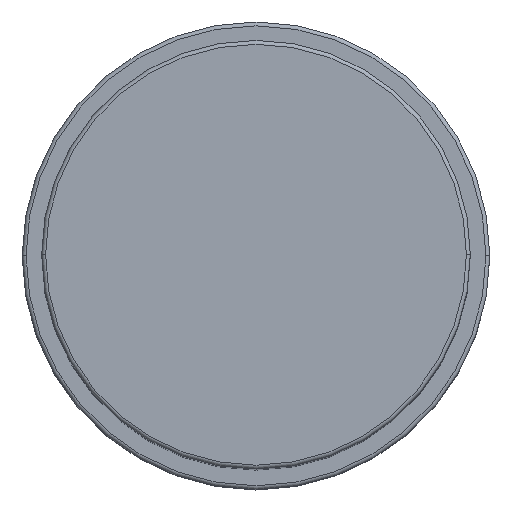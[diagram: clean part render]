
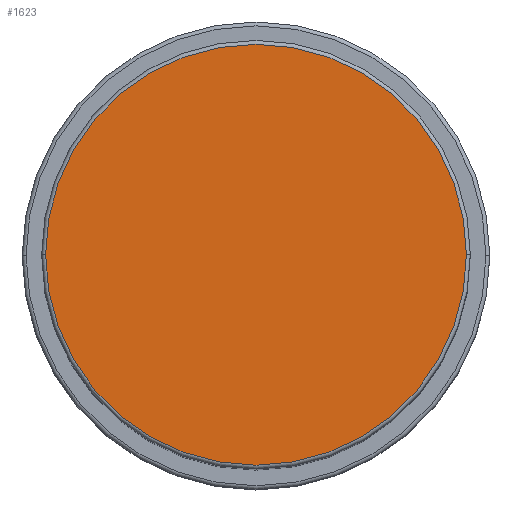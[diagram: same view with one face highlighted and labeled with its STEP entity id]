
A CAD part, top view. The second image highlights one B-rep face of the part: STEP entity #1623.
In plain terms, the highlighted planar face has unit normal (0, 0, 1).
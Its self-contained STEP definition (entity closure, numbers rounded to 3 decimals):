
#163 = ORIENTED_EDGE ( 'NONE', *, *, #1152, .T. ) ;
#214 = CIRCLE ( 'NONE', #1196, 27. ) ;
#260 = CIRCLE ( 'NONE', #1190, 27. ) ;
#301 = DIRECTION ( 'NONE',  ( 0., 0., 1. ) ) ;
#475 = CARTESIAN_POINT ( 'NONE',  ( 27., 0., 106. ) ) ;
#560 = DIRECTION ( 'NONE',  ( 0., 0., 1. ) ) ;
#583 = CARTESIAN_POINT ( 'NONE',  ( 0., 0., 106. ) ) ;
#597 = FACE_OUTER_BOUND ( 'NONE', #1136, .T. ) ;
#606 = VERTEX_POINT ( 'NONE', #475 ) ;
#641 = EDGE_CURVE ( 'NONE', #606, #1639, #214, .T. ) ;
#819 = CARTESIAN_POINT ( 'NONE',  ( 0., 0., 106. ) ) ;
#919 = DIRECTION ( 'NONE',  ( 0., 0., 1. ) ) ;
#925 = AXIS2_PLACEMENT_3D ( 'NONE', #583, #560, #1073 ) ;
#956 = ORIENTED_EDGE ( 'NONE', *, *, #641, .T. ) ;
#1073 = DIRECTION ( 'NONE',  ( 1., 0., 0. ) ) ;
#1136 = EDGE_LOOP ( 'NONE', ( #956, #163 ) ) ;
#1152 = EDGE_CURVE ( 'NONE', #1639, #606, #260, .T. ) ;
#1190 = AXIS2_PLACEMENT_3D ( 'NONE', #819, #301, #1192 ) ;
#1192 = DIRECTION ( 'NONE',  ( 1., 0., 0. ) ) ;
#1196 = AXIS2_PLACEMENT_3D ( 'NONE', #1641, #919, #1286 ) ;
#1203 = CARTESIAN_POINT ( 'NONE',  ( -27., 0., 106. ) ) ;
#1286 = DIRECTION ( 'NONE',  ( 1., 0., 0. ) ) ;
#1341 = PLANE ( 'NONE',  #925 ) ;
#1623 = ADVANCED_FACE ( 'NONE', ( #597 ), #1341, .T. ) ;
#1639 = VERTEX_POINT ( 'NONE', #1203 ) ;
#1641 = CARTESIAN_POINT ( 'NONE',  ( 0., 0., 106. ) ) ;
